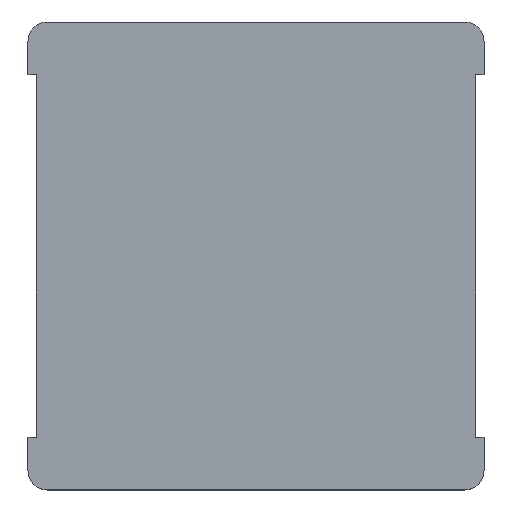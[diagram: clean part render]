
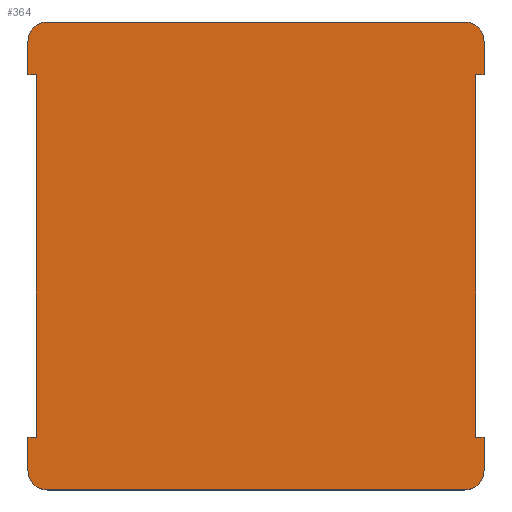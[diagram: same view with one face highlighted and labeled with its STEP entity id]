
A CAD part, top view. The second image highlights one B-rep face of the part: STEP entity #364.
In plain terms, the highlighted planar face has unit normal (0, 0, 1).
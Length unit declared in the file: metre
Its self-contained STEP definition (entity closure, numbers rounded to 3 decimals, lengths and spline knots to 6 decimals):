
#13=CIRCLE('',#496,0.0005);
#15=CIRCLE('',#500,0.0005);
#17=CIRCLE('',#504,0.0005);
#19=CIRCLE('',#508,0.0005);
#96=ORIENTED_EDGE('',*,*,#123,.T.);
#97=ORIENTED_EDGE('',*,*,#129,.T.);
#98=ORIENTED_EDGE('',*,*,#166,.T.);
#99=ORIENTED_EDGE('',*,*,#160,.T.);
#100=ORIENTED_EDGE('',*,*,#157,.T.);
#101=ORIENTED_EDGE('',*,*,#154,.T.);
#102=ORIENTED_EDGE('',*,*,#151,.T.);
#103=ORIENTED_EDGE('',*,*,#134,.F.);
#104=ORIENTED_EDGE('',*,*,#133,.T.);
#105=ORIENTED_EDGE('',*,*,#137,.F.);
#106=ORIENTED_EDGE('',*,*,#162,.T.);
#107=ORIENTED_EDGE('',*,*,#148,.T.);
#108=ORIENTED_EDGE('',*,*,#145,.T.);
#109=ORIENTED_EDGE('',*,*,#142,.T.);
#110=ORIENTED_EDGE('',*,*,#167,.T.);
#111=ORIENTED_EDGE('',*,*,#126,.T.);
#123=EDGE_CURVE('',#169,#171,#203,.T.);
#126=EDGE_CURVE('',#173,#169,#206,.T.);
#129=EDGE_CURVE('',#171,#175,#209,.T.);
#133=EDGE_CURVE('',#176,#179,#213,.T.);
#134=EDGE_CURVE('',#176,#180,#214,.T.);
#137=EDGE_CURVE('',#182,#179,#217,.T.);
#142=EDGE_CURVE('',#187,#186,#13,.T.);
#145=EDGE_CURVE('',#189,#187,#223,.T.);
#148=EDGE_CURVE('',#191,#189,#15,.T.);
#151=EDGE_CURVE('',#193,#180,#227,.T.);
#154=EDGE_CURVE('',#195,#193,#17,.T.);
#157=EDGE_CURVE('',#197,#195,#231,.T.);
#160=EDGE_CURVE('',#199,#197,#19,.T.);
#162=EDGE_CURVE('',#182,#191,#234,.T.);
#166=EDGE_CURVE('',#175,#199,#238,.T.);
#167=EDGE_CURVE('',#186,#173,#239,.T.);
#169=VERTEX_POINT('',#612);
#171=VERTEX_POINT('',#616);
#173=VERTEX_POINT('',#621);
#175=VERTEX_POINT('',#628);
#176=VERTEX_POINT('',#632);
#179=VERTEX_POINT('',#637);
#180=VERTEX_POINT('',#641);
#182=VERTEX_POINT('',#647);
#186=VERTEX_POINT('',#656);
#187=VERTEX_POINT('',#658);
#189=VERTEX_POINT('',#664);
#191=VERTEX_POINT('',#670);
#193=VERTEX_POINT('',#676);
#195=VERTEX_POINT('',#682);
#197=VERTEX_POINT('',#688);
#199=VERTEX_POINT('',#694);
#203=LINE('',#617,#243);
#206=LINE('',#623,#246);
#209=LINE('',#629,#249);
#213=LINE('',#638,#253);
#214=LINE('',#640,#254);
#217=LINE('',#646,#257);
#223=LINE('',#663,#263);
#227=LINE('',#675,#267);
#231=LINE('',#687,#271);
#234=LINE('',#697,#274);
#238=LINE('',#703,#278);
#239=LINE('',#704,#279);
#243=VECTOR('',#521,1.);
#246=VECTOR('',#526,1.);
#249=VECTOR('',#531,1.);
#253=VECTOR('',#537,1.);
#254=VECTOR('',#540,1.);
#257=VECTOR('',#545,1.);
#263=VECTOR('',#559,1.);
#267=VECTOR('',#571,1.);
#271=VECTOR('',#583,1.);
#274=VECTOR('',#594,1.);
#278=VECTOR('',#602,1.);
#279=VECTOR('',#603,1.);
#295=EDGE_LOOP('',(#96,#97,#98,#99,#100,#101,#102,#103,#104,#105,#106,#107,
#108,#109,#110,#111));
#313=FACE_BOUND('',#295,.T.);
#327=PLANE('',#511);
#364=ADVANCED_FACE('',(#313),#327,.T.);
#496=AXIS2_PLACEMENT_3D('',#657,#553,#554);
#500=AXIS2_PLACEMENT_3D('',#669,#565,#566);
#504=AXIS2_PLACEMENT_3D('',#681,#577,#578);
#508=AXIS2_PLACEMENT_3D('',#693,#589,#590);
#511=AXIS2_PLACEMENT_3D('',#702,#600,#601);
#521=DIRECTION('',(0.,-1.,0.));
#526=DIRECTION('',(1.,0.,0.));
#531=DIRECTION('',(-1.,0.,0.));
#537=DIRECTION('',(0.,1.,0.));
#540=DIRECTION('',(1.,0.,0.));
#545=DIRECTION('',(-1.,0.,0.));
#553=DIRECTION('',(0.,0.,1.));
#554=DIRECTION('',(1.,0.,0.));
#559=DIRECTION('',(-1.,0.,0.));
#565=DIRECTION('',(0.,0.,1.));
#566=DIRECTION('',(-1.,0.,0.));
#571=DIRECTION('',(0.,1.,0.));
#577=DIRECTION('',(0.,0.,1.));
#578=DIRECTION('',(1.,0.,0.));
#583=DIRECTION('',(1.,0.,0.));
#589=DIRECTION('',(0.,0.,1.));
#590=DIRECTION('',(1.,0.,0.));
#594=DIRECTION('',(0.,1.,0.));
#600=DIRECTION('',(0.,0.,1.));
#601=DIRECTION('',(1.,0.,0.));
#602=DIRECTION('',(0.,-1.,0.));
#603=DIRECTION('',(0.,-1.,0.));
#612=CARTESIAN_POINT('',(-0.08365,-0.050506,0.01379));
#616=CARTESIAN_POINT('',(-0.08365,-0.059806,0.01379));
#617=CARTESIAN_POINT('',(-0.08365,-0.060656,0.01379));
#621=CARTESIAN_POINT('',(-0.08387,-0.050506,0.01379));
#623=CARTESIAN_POINT('',(-0.08337,-0.050506,0.01379));
#628=CARTESIAN_POINT('',(-0.08387,-0.059806,0.01379));
#629=CARTESIAN_POINT('',(-0.08337,-0.059806,0.01379));
#632=CARTESIAN_POINT('',(-0.07239,-0.059806,0.01379));
#637=CARTESIAN_POINT('',(-0.07239,-0.050506,0.01379));
#638=CARTESIAN_POINT('',(-0.07239,-0.060656,0.01379));
#640=CARTESIAN_POINT('',(-0.08337,-0.059806,0.01379));
#641=CARTESIAN_POINT('',(-0.07217,-0.059806,0.01379));
#646=CARTESIAN_POINT('',(-0.08337,-0.050506,0.01379));
#647=CARTESIAN_POINT('',(-0.07217,-0.050506,0.01379));
#656=CARTESIAN_POINT('',(-0.08387,-0.049656,0.01379));
#657=CARTESIAN_POINT('',(-0.08337,-0.049656,0.01379));
#658=CARTESIAN_POINT('',(-0.08337,-0.049156,0.01379));
#663=CARTESIAN_POINT('',(-0.08337,-0.049156,0.01379));
#664=CARTESIAN_POINT('',(-0.07267,-0.049156,0.01379));
#669=CARTESIAN_POINT('',(-0.07267,-0.049656,0.01379));
#670=CARTESIAN_POINT('',(-0.07217,-0.049656,0.01379));
#675=CARTESIAN_POINT('',(-0.07217,-0.049656,0.01379));
#676=CARTESIAN_POINT('',(-0.07217,-0.060656,0.01379));
#681=CARTESIAN_POINT('',(-0.07267,-0.060656,0.01379));
#682=CARTESIAN_POINT('',(-0.07267,-0.061156,0.01379));
#687=CARTESIAN_POINT('',(-0.08337,-0.061156,0.01379));
#688=CARTESIAN_POINT('',(-0.08337,-0.061156,0.01379));
#693=CARTESIAN_POINT('',(-0.08337,-0.060656,0.01379));
#694=CARTESIAN_POINT('',(-0.08387,-0.060656,0.01379));
#697=CARTESIAN_POINT('',(-0.07217,-0.049656,0.01379));
#702=CARTESIAN_POINT('',(-0.08337,-0.060656,0.01379));
#703=CARTESIAN_POINT('',(-0.08387,-0.049656,0.01379));
#704=CARTESIAN_POINT('',(-0.08387,-0.049656,0.01379));
